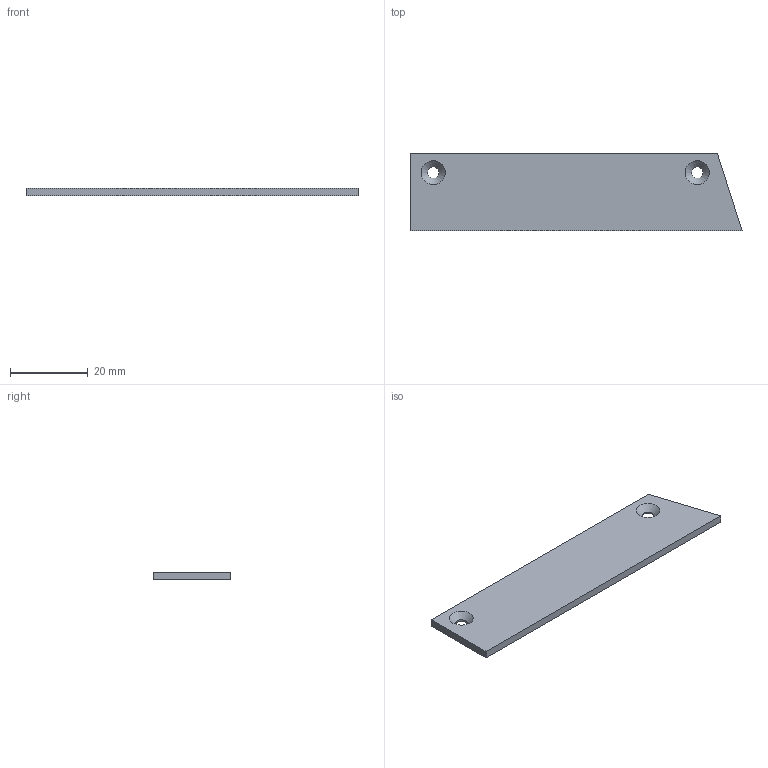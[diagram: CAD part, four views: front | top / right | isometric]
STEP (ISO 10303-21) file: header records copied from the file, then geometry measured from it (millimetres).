
FILE_DESCRIPTION(/* description */ (''),/* implementation_level */ '2;1');
FILE_NAME(/* name */ 'DED lid2.step',/* time_stamp */ '2024-10-31T18:14:35+02:00',/* author */ (''),/* organization */ (''),/* preprocessor_version */ 'ST-DEVELOPER v20',/* originating_system */ 'Autodesk Translation Framework v13.20.0.188',/* authorisation */ '');
FILE_SCHEMA (('AUTOMOTIVE_DESIGN { 1 0 10303 214 3 1 1 }'));
Length unit declared in the file: millimetre
Products named in the file (1): DED
Bounding box: 85.65 x 20 x 2 mm (x, y, z)
Volume: 3237.8 mm3; surface area: 3709.1 mm2
Topology: 1 solids, 1 shells, 10 faces, 22 edges, 14 vertices
Faces by surface type: plane 6, cone 2, cylinder 2
Full cylindrical faces by diameter (mm): 3 x2
Entity records: 306 total; most frequent: DIRECTION 50, CARTESIAN_POINT 47, ORIENTED_EDGE 44, EDGE_CURVE 22, AXIS2_PLACEMENT_3D 17, LINE 16, VECTOR 16, EDGE_LOOP 14
